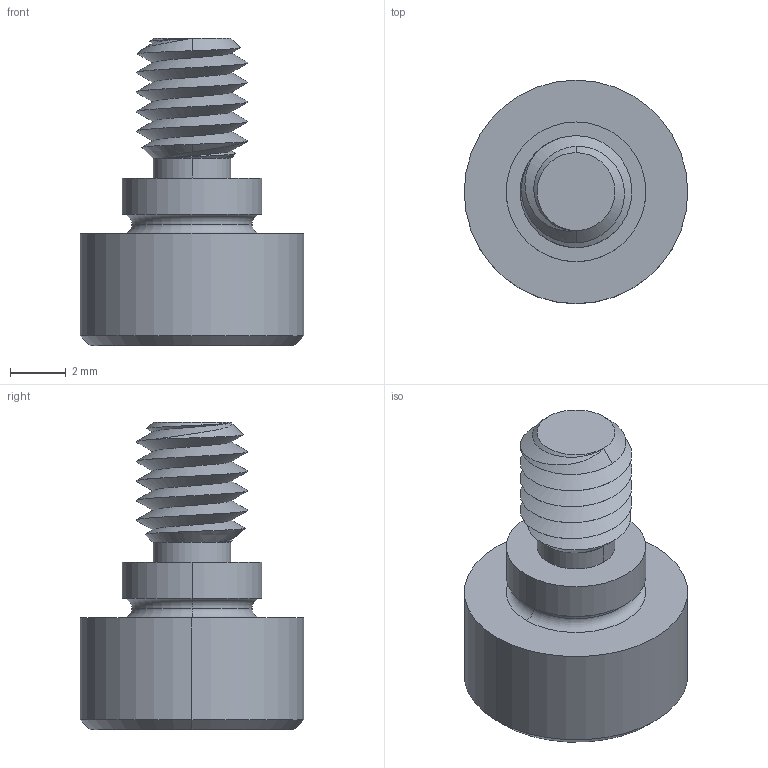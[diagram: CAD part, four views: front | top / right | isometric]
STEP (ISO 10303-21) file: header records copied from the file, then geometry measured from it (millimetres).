
FILE_DESCRIPTION (( 'STEP AP203' ), '1' );
FILE_NAME ('P0130.050-002-B2.step', '2021-11-09T21:09:38', ( '' ), ( '' ), 'SwSTEP 2.0', 'SolidWorks 2019', '' );
FILE_SCHEMA (( 'CONFIG_CONTROL_DESIGN' ));
Length unit declared in the file: millimetre
Products named in the file (1): P0130.050-002-B2
Bounding box: 8 x 8 x 11 mm (x, y, z)
Volume: 263.6 mm3; surface area: 346.9 mm2
Topology: 1 solids, 1 shells, 53 faces, 121 edges, 71 vertices
Faces by surface type: cylinder 16, plane 16, cone 15, torus 4, bspline 2
Entity records: 2151 total; most frequent: CARTESIAN_POINT 968, ORIENTED_EDGE 238, DIRECTION 226, EDGE_CURVE 119, AXIS2_PLACEMENT_3D 92, VERTEX_POINT 71, EDGE_LOOP 56, ADVANCED_FACE 53
